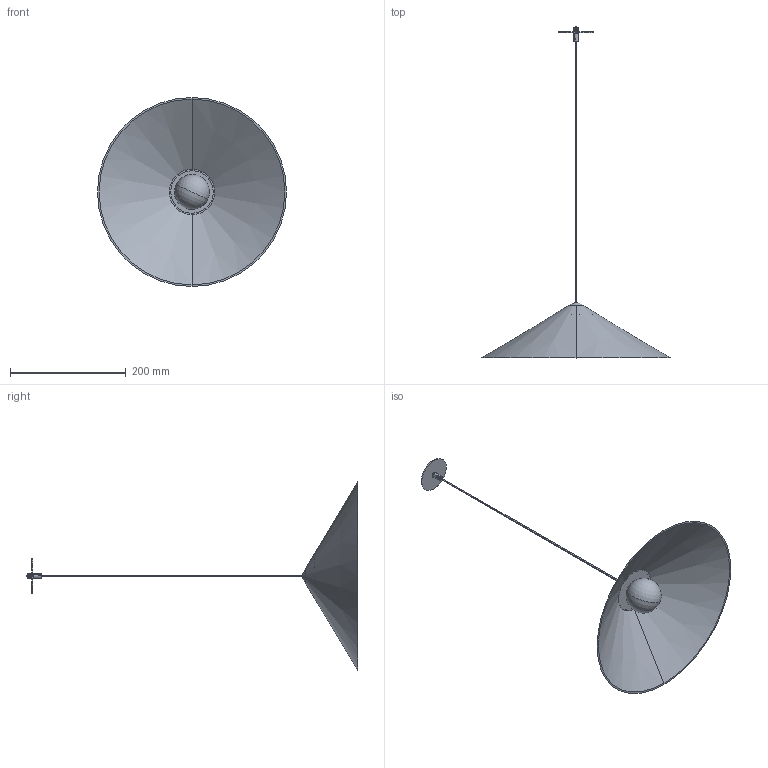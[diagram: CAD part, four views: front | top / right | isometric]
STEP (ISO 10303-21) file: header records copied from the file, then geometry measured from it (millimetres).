
FILE_DESCRIPTION (( 'STEP AP214' ), '1' );
FILE_NAME ('BELL_330_Emp_STEP.STEP', '2024-05-29T14:50:39', ( '' ), ( '' ), 'SwSTEP 2.0', 'SolidWorks 2024', '' );
FILE_SCHEMA (( 'AUTOMOTIVE_DESIGN' ));
Length unit declared in the file: millimetre
Products named in the file (1): BELL_330_Emp_STEP
Bounding box: 327 x 574 x 327 mm (x, y, z)
Volume: 188187.8 mm3; surface area: 236003.6 mm2
Topology: 8 solids, 8 shells, 204 faces, 497 edges, 325 vertices
Faces by surface type: plane 78, cylinder 70, bspline 24, cone 16, torus 12, sphere 4
Entity records: 11564 total; most frequent: CARTESIAN_POINT 7007, ORIENTED_EDGE 974, DIRECTION 845, EDGE_CURVE 487, VERTEX_POINT 319, AXIS2_PLACEMENT_3D 312, EDGE_LOOP 236, LINE 221
